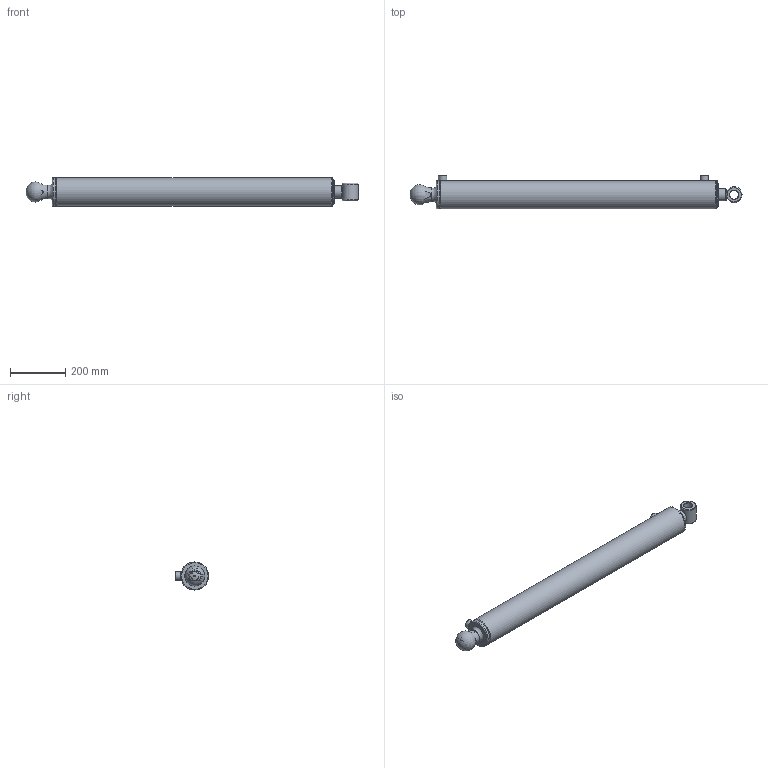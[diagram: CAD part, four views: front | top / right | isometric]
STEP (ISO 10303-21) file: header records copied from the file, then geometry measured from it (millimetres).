
FILE_DESCRIPTION(/* description */ ('Alibre Inc.'),/* implementation_level */ '2;1');
FILE_NAME(/* name */ 'export0',/* time_stamp */ '2016-08-16T10:06:00+12:00',/* author */ (''),/* organization */ (''),/* preprocessor_version */ 'ST-DEVELOPER v14',/* originating_system */ 'Alibre',/* authorisation */ '');
FILE_SCHEMA (('AUTOMOTIVE_DESIGN'));
Length unit declared in the file: centimetre
Bounding box: 1198.91 x 121.6 x 101.6 mm (x, y, z)
Volume: 4471336.1 mm3; surface area: 953418.2 mm2
Topology: 12 solids, 12 shells, 148 faces, 306 edges, 191 vertices
Faces by surface type: cylinder 57, plane 48, cone 26, torus 16, bspline 1
Full cylindrical faces by diameter (mm): 7 x1, 8.3 x2, 8.4 x1, 12.7 x2, 19.1 x2, 29.35 x1, 29.972 x1, 30 x2, 31.75 x1, 31.8 x1, 31.801 x1, 44.45 x2, 44.53 x2, 50.8 x1, 53.25 x2, 53.97 x2, 57.15 x1, 73.03 x1, 81.9 x1, 83.06 x1, 84.3 x2, 85.27 x2, 85.5 x1, 87.53 x2, 88.75 x1, 88.79 x2, 88.9 x2, 92.1 x1, 101.6 x3
Entity records: 4071 total; most frequent: CARTESIAN_POINT 1180, DIRECTION 562, ORIENTED_EDGE 372, AXIS2_PLACEMENT_3D 297, FACE_BOUND 270, EDGE_LOOP 267, EDGE_CURVE 186, VERTEX_POINT 166
